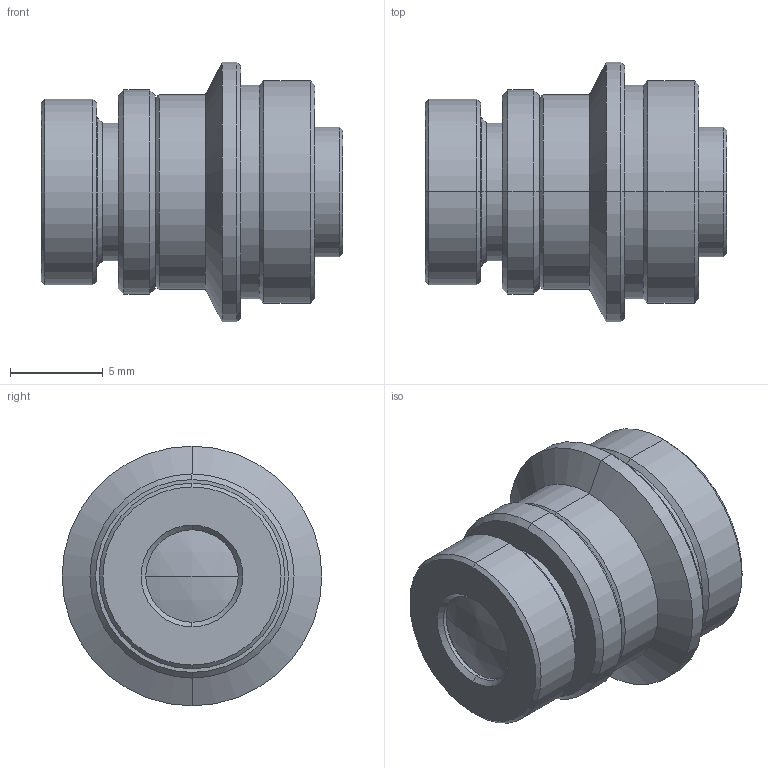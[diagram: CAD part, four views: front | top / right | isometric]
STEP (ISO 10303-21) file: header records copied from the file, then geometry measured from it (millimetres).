
FILE_DESCRIPTION (( 'STEP AP203' ), '1' );
FILE_NAME ('VS-MC1375-40N.STEP', '2020-07-28T06:55:51', ( '' ), ( '' ), 'SwSTEP 2.0', 'SolidWorks 2018', '' );
FILE_SCHEMA (( 'CONFIG_CONTROL_DESIGN' ));
Length unit declared in the file: millimetre
Products named in the file (1): VS-MC1375-40N
Bounding box: 16.28 x 14 x 14 mm (x, y, z)
Volume: 1442.8 mm3; surface area: 1009.5 mm2
Topology: 1 solids, 1 shells, 70 faces, 140 edges, 82 vertices
Faces by surface type: cone 32, cylinder 24, plane 10, sphere 4
Entity records: 1893 total; most frequent: DIRECTION 366, CARTESIAN_POINT 293, ORIENTED_EDGE 280, AXIS2_PLACEMENT_3D 155, EDGE_CURVE 140, CIRCLE 84, VERTEX_POINT 82, EDGE_LOOP 80
